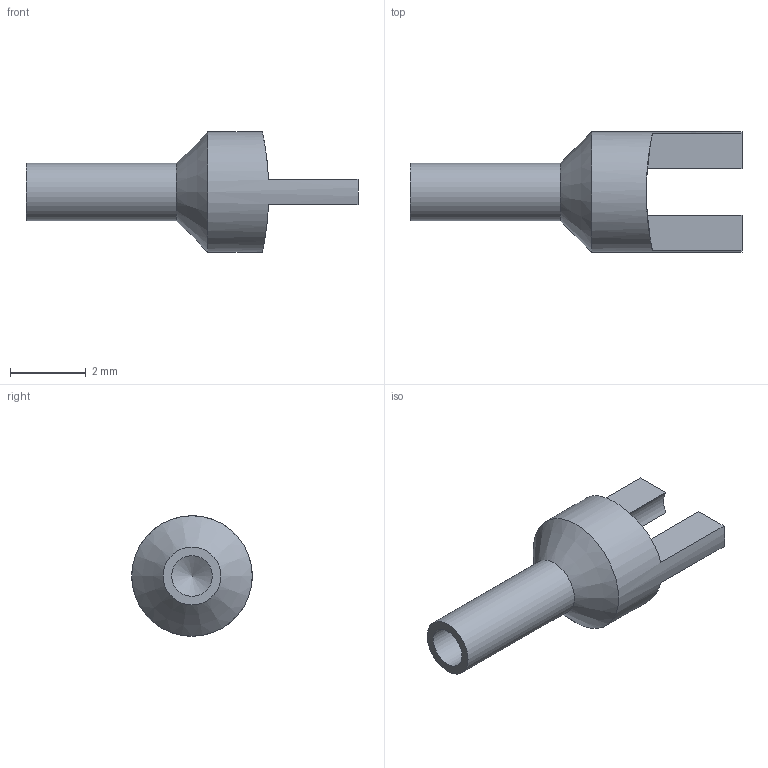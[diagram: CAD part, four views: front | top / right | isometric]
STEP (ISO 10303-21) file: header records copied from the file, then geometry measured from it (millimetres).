
FILE_DESCRIPTION(/* description */ (''),/* implementation_level */ '2;1');
FILE_NAME(/* name */ 'Z:\STEP folder\180-2926-04.ipt.stp',/* time_stamp */ '2016-12-07T16:17:41+00:00',/* author */ ('Paul Karlsons'),/* organization */ (''),/* preprocessor_version */ 'ST-DEVELOPER v15.2',/* originating_system */ 'Autodesk Inventor 2014',/* authorisation */ '');
FILE_SCHEMA (('AUTOMOTIVE_DESIGN { 1 0 10303 214 3 1 1 }'));
Length unit declared in the file: millimetre
Products named in the file (1): 180-2926-04
Bounding box: 8.75 x 3.17 x 3.17 mm (x, y, z)
Volume: 23.4 mm3; surface area: 75.2 mm2
Topology: 1 solids, 1 shells, 16 faces, 41 edges, 26 vertices
Faces by surface type: plane 7, cylinder 6, cone 3
Full cylindrical faces by diameter (mm): 1.067 x1, 1.397 x1, 1.524 x1, 3.175 x1
Entity records: 489 total; most frequent: CARTESIAN_POINT 129, DIRECTION 74, ORIENTED_EDGE 60, AXIS2_PLACEMENT_3D 31, EDGE_CURVE 30, EDGE_LOOP 22, VERTEX_POINT 22, ADVANCED_FACE 16
